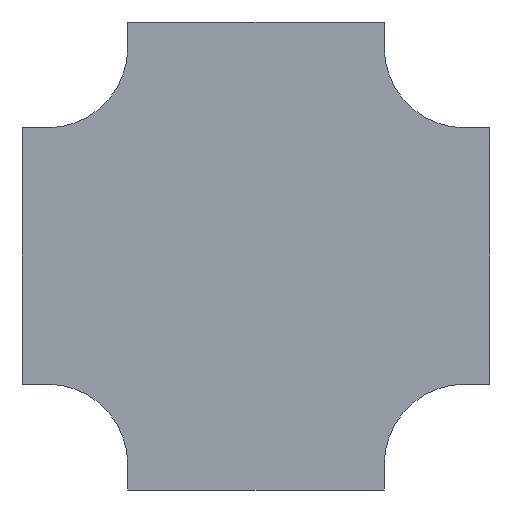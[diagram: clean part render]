
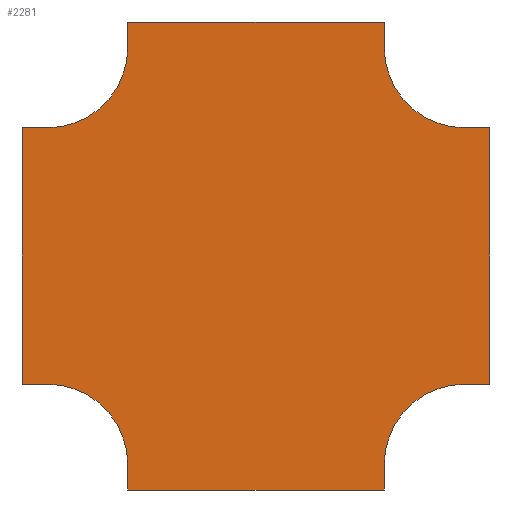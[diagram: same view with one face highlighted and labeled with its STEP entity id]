
A CAD part, front view. The second image highlights one B-rep face of the part: STEP entity #2281.
In plain terms, the highlighted planar face has unit normal (0, -1, 0).
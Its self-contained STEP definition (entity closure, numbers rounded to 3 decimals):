
#20 = DIRECTION ( 'NONE',  ( -1., 0., 0. ) ) ;
#71 = CARTESIAN_POINT ( 'NONE',  ( -125., 0., 40. ) ) ;
#90 = EDGE_CURVE ( 'NONE', #2850, #2170, #2141, .T. ) ;
#99 = CARTESIAN_POINT ( 'NONE',  ( -525., 0., 40. ) ) ;
#108 = LINE ( 'NONE', #3186, #1132 ) ;
#110 = VECTOR ( 'NONE', #3229, 1000. ) ;
#124 = VECTOR ( 'NONE', #620, 1000. ) ;
#131 = DIRECTION ( 'NONE',  ( 0., 0., -1. ) ) ;
#142 = EDGE_CURVE ( 'NONE', #1898, #1845, #108, .T. ) ;
#191 = CARTESIAN_POINT ( 'NONE',  ( -125., 0., -690. ) ) ;
#196 = CARTESIAN_POINT ( 'NONE',  ( -650., 0., -650. ) ) ;
#220 = CARTESIAN_POINT ( 'NONE',  ( -650., 0., 0. ) ) ;
#278 = ORIENTED_EDGE ( 'NONE', *, *, #2100, .F. ) ;
#289 = DIRECTION ( 'NONE',  ( -1., 0., 0. ) ) ;
#304 = DIRECTION ( 'NONE',  ( 0., -1., 0. ) ) ;
#320 = CARTESIAN_POINT ( 'NONE',  ( 0., 0., -525. ) ) ;
#332 = CARTESIAN_POINT ( 'NONE',  ( -125., 0., 0. ) ) ;
#347 = EDGE_CURVE ( 'NONE', #3008, #2081, #1041, .T. ) ;
#385 = CARTESIAN_POINT ( 'NONE',  ( -525., 0., 40. ) ) ;
#391 = EDGE_CURVE ( 'NONE', #401, #2269, #440, .T. ) ;
#401 = VERTEX_POINT ( 'NONE', #320 ) ;
#412 = CARTESIAN_POINT ( 'NONE',  ( 40., 0., -525. ) ) ;
#414 = EDGE_LOOP ( 'NONE', ( #1153, #1544, #1973, #726, #1568, #1952, #2119, #3265, #278, #1210, #1051, #653, #2248, #2950, #1548, #1739 ) ) ;
#440 = CIRCLE ( 'NONE', #2943, 125. ) ;
#489 = EDGE_CURVE ( 'NONE', #3115, #3008, #3154, .T. ) ;
#533 = EDGE_CURVE ( 'NONE', #2269, #1979, #2427, .T. ) ;
#572 = DIRECTION ( 'NONE',  ( 0., 0., 1. ) ) ;
#590 = CIRCLE ( 'NONE', #1817, 125. ) ;
#620 = DIRECTION ( 'NONE',  ( 0., 0., -1. ) ) ;
#627 = VECTOR ( 'NONE', #289, 1000. ) ;
#653 = ORIENTED_EDGE ( 'NONE', *, *, #2967, .F. ) ;
#665 = CARTESIAN_POINT ( 'NONE',  ( -690., 0., -125. ) ) ;
#726 = ORIENTED_EDGE ( 'NONE', *, *, #90, .F. ) ;
#795 = CARTESIAN_POINT ( 'NONE',  ( -525., 0., -690. ) ) ;
#822 = VECTOR ( 'NONE', #1101, 1000. ) ;
#826 = CARTESIAN_POINT ( 'NONE',  ( -525., 0., -690. ) ) ;
#843 = DIRECTION ( 'NONE',  ( -1., 0., 0. ) ) ;
#875 = LINE ( 'NONE', #1403, #1112 ) ;
#908 = CIRCLE ( 'NONE', #1599, 125. ) ;
#919 = FACE_OUTER_BOUND ( 'NONE', #414, .T. ) ;
#924 = CARTESIAN_POINT ( 'NONE',  ( -525., 0., 0. ) ) ;
#939 = VERTEX_POINT ( 'NONE', #332 ) ;
#980 = CARTESIAN_POINT ( 'NONE',  ( -525., 0., -690. ) ) ;
#998 = EDGE_CURVE ( 'NONE', #1845, #2742, #1197, .T. ) ;
#1027 = EDGE_CURVE ( 'NONE', #1110, #1457, #908, .T. ) ;
#1041 = LINE ( 'NONE', #1058, #1771 ) ;
#1051 = ORIENTED_EDGE ( 'NONE', *, *, #391, .F. ) ;
#1054 = LINE ( 'NONE', #71, #1107 ) ;
#1058 = CARTESIAN_POINT ( 'NONE',  ( -525., 0., 40. ) ) ;
#1101 = DIRECTION ( 'NONE',  ( 0., 0., 1. ) ) ;
#1107 = VECTOR ( 'NONE', #1530, 1000. ) ;
#1110 = VERTEX_POINT ( 'NONE', #1444 ) ;
#1112 = VECTOR ( 'NONE', #2140, 1000. ) ;
#1132 = VECTOR ( 'NONE', #1670, 1000. ) ;
#1153 = ORIENTED_EDGE ( 'NONE', *, *, #347, .F. ) ;
#1170 = CARTESIAN_POINT ( 'NONE',  ( -125., 0., -650. ) ) ;
#1197 = LINE ( 'NONE', #1774, #110 ) ;
#1210 = ORIENTED_EDGE ( 'NONE', *, *, #533, .F. ) ;
#1253 = VERTEX_POINT ( 'NONE', #2659 ) ;
#1273 = AXIS2_PLACEMENT_3D ( 'NONE', #2412, #1363, #131 ) ;
#1301 = CARTESIAN_POINT ( 'NONE',  ( 0., 0., -525. ) ) ;
#1337 = CARTESIAN_POINT ( 'NONE',  ( -650., 0., -525. ) ) ;
#1338 = CARTESIAN_POINT ( 'NONE',  ( 0., 0., -650. ) ) ;
#1363 = DIRECTION ( 'NONE',  ( 0., -1., 0. ) ) ;
#1372 = DIRECTION ( 'NONE',  ( 0., -1., 0. ) ) ;
#1375 = VECTOR ( 'NONE', #1995, 1000. ) ;
#1403 = CARTESIAN_POINT ( 'NONE',  ( -690., 0., -125. ) ) ;
#1420 = EDGE_CURVE ( 'NONE', #2170, #3115, #590, .T. ) ;
#1444 = CARTESIAN_POINT ( 'NONE',  ( -525., 0., -650. ) ) ;
#1457 = VERTEX_POINT ( 'NONE', #2468 ) ;
#1530 = DIRECTION ( 'NONE',  ( 0., 0., -1. ) ) ;
#1544 = ORIENTED_EDGE ( 'NONE', *, *, #489, .F. ) ;
#1548 = ORIENTED_EDGE ( 'NONE', *, *, #3017, .F. ) ;
#1568 = ORIENTED_EDGE ( 'NONE', *, *, #2183, .F. ) ;
#1599 = AXIS2_PLACEMENT_3D ( 'NONE', #196, #2960, #2475 ) ;
#1669 = CARTESIAN_POINT ( 'NONE',  ( -650., 0., -125. ) ) ;
#1670 = DIRECTION ( 'NONE',  ( 1., 0., 0. ) ) ;
#1695 = AXIS2_PLACEMENT_3D ( 'NONE', #2951, #1372, #2385 ) ;
#1707 = CARTESIAN_POINT ( 'NONE',  ( 0., 0., -125. ) ) ;
#1739 = ORIENTED_EDGE ( 'NONE', *, *, #2893, .F. ) ;
#1771 = VECTOR ( 'NONE', #2337, 1000. ) ;
#1774 = CARTESIAN_POINT ( 'NONE',  ( 40., 0., -125. ) ) ;
#1817 = AXIS2_PLACEMENT_3D ( 'NONE', #220, #2216, #3291 ) ;
#1845 = VERTEX_POINT ( 'NONE', #2944 ) ;
#1873 = VECTOR ( 'NONE', #3157, 1000. ) ;
#1898 = VERTEX_POINT ( 'NONE', #1707 ) ;
#1919 = CARTESIAN_POINT ( 'NONE',  ( -650., 0., -125. ) ) ;
#1933 = PLANE ( 'NONE',  #1695 ) ;
#1952 = ORIENTED_EDGE ( 'NONE', *, *, #2522, .F. ) ;
#1973 = ORIENTED_EDGE ( 'NONE', *, *, #1420, .F. ) ;
#1979 = VERTEX_POINT ( 'NONE', #191 ) ;
#1984 = LINE ( 'NONE', #980, #1375 ) ;
#1995 = DIRECTION ( 'NONE',  ( 0., 0., 1. ) ) ;
#2081 = VERTEX_POINT ( 'NONE', #2355 ) ;
#2100 = EDGE_CURVE ( 'NONE', #1979, #2428, #2368, .T. ) ;
#2119 = ORIENTED_EDGE ( 'NONE', *, *, #1027, .F. ) ;
#2140 = DIRECTION ( 'NONE',  ( 0., 0., 1. ) ) ;
#2141 = LINE ( 'NONE', #1919, #1873 ) ;
#2170 = VERTEX_POINT ( 'NONE', #1669 ) ;
#2183 = EDGE_CURVE ( 'NONE', #1253, #2850, #875, .T. ) ;
#2216 = DIRECTION ( 'NONE',  ( 0., -1., 0. ) ) ;
#2227 = VECTOR ( 'NONE', #843, 1000. ) ;
#2248 = ORIENTED_EDGE ( 'NONE', *, *, #998, .F. ) ;
#2269 = VERTEX_POINT ( 'NONE', #1170 ) ;
#2281 = ADVANCED_FACE ( 'NONE', ( #919 ), #1933, .T. ) ;
#2337 = DIRECTION ( 'NONE',  ( 1., 0., 0. ) ) ;
#2355 = CARTESIAN_POINT ( 'NONE',  ( -125., 0., 40. ) ) ;
#2368 = LINE ( 'NONE', #795, #2227 ) ;
#2385 = DIRECTION ( 'NONE',  ( 0., 0., -1. ) ) ;
#2412 = CARTESIAN_POINT ( 'NONE',  ( 0., 0., 0. ) ) ;
#2427 = LINE ( 'NONE', #2919, #124 ) ;
#2428 = VERTEX_POINT ( 'NONE', #826 ) ;
#2468 = CARTESIAN_POINT ( 'NONE',  ( -650., 0., -525. ) ) ;
#2475 = DIRECTION ( 'NONE',  ( 0., 0., -1. ) ) ;
#2522 = EDGE_CURVE ( 'NONE', #1457, #1253, #2572, .T. ) ;
#2572 = LINE ( 'NONE', #1337, #627 ) ;
#2659 = CARTESIAN_POINT ( 'NONE',  ( -690., 0., -525. ) ) ;
#2742 = VERTEX_POINT ( 'NONE', #412 ) ;
#2811 = EDGE_CURVE ( 'NONE', #2428, #1110, #1984, .T. ) ;
#2812 = CIRCLE ( 'NONE', #1273, 125. ) ;
#2850 = VERTEX_POINT ( 'NONE', #665 ) ;
#2893 = EDGE_CURVE ( 'NONE', #2081, #939, #1054, .T. ) ;
#2919 = CARTESIAN_POINT ( 'NONE',  ( -125., 0., -690. ) ) ;
#2943 = AXIS2_PLACEMENT_3D ( 'NONE', #1338, #304, #572 ) ;
#2944 = CARTESIAN_POINT ( 'NONE',  ( 40., 0., -125. ) ) ;
#2950 = ORIENTED_EDGE ( 'NONE', *, *, #142, .F. ) ;
#2951 = CARTESIAN_POINT ( 'NONE',  ( 0., 0., 0. ) ) ;
#2960 = DIRECTION ( 'NONE',  ( 0., -1., 0. ) ) ;
#2967 = EDGE_CURVE ( 'NONE', #2742, #401, #3051, .T. ) ;
#3008 = VERTEX_POINT ( 'NONE', #99 ) ;
#3017 = EDGE_CURVE ( 'NONE', #939, #1898, #2812, .T. ) ;
#3051 = LINE ( 'NONE', #1301, #3133 ) ;
#3115 = VERTEX_POINT ( 'NONE', #924 ) ;
#3133 = VECTOR ( 'NONE', #20, 1000. ) ;
#3154 = LINE ( 'NONE', #385, #822 ) ;
#3157 = DIRECTION ( 'NONE',  ( 1., 0., 0. ) ) ;
#3186 = CARTESIAN_POINT ( 'NONE',  ( 0., 0., -125. ) ) ;
#3229 = DIRECTION ( 'NONE',  ( 0., 0., -1. ) ) ;
#3265 = ORIENTED_EDGE ( 'NONE', *, *, #2811, .F. ) ;
#3291 = DIRECTION ( 'NONE',  ( 0., 0., 1. ) ) ;
